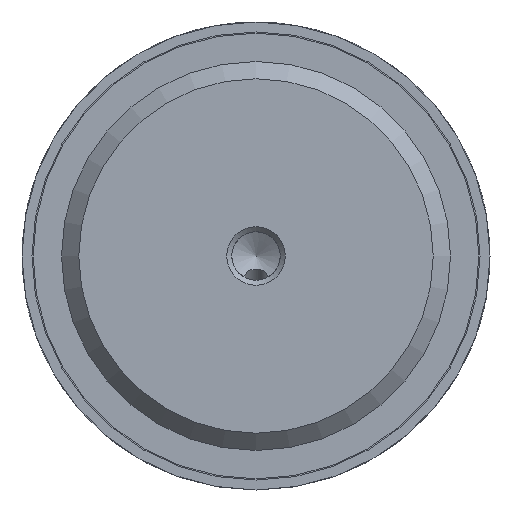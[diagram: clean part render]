
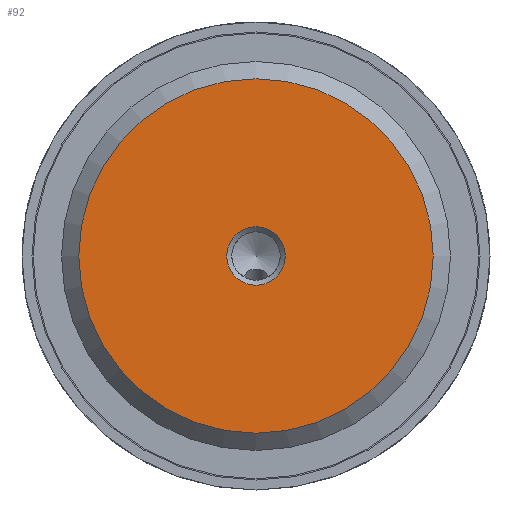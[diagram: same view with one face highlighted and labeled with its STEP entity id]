
A CAD part, front view. The second image highlights one B-rep face of the part: STEP entity #92.
In plain terms, the highlighted planar face has unit normal (0, -1, 0).
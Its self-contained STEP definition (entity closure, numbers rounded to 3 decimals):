
#92 = ADVANCED_FACE( '', ( #147, #148 ), #149, .F. );
#147 = FACE_BOUND( '', #223, .T. );
#148 = FACE_OUTER_BOUND( '', #224, .T. );
#149 = PLANE( '', #225 );
#223 = EDGE_LOOP( '', ( #373 ) );
#224 = EDGE_LOOP( '', ( #374 ) );
#225 = AXIS2_PLACEMENT_3D( '', #375, #376, #377 );
#373 = ORIENTED_EDGE( '', *, *, #497, .F. );
#374 = ORIENTED_EDGE( '', *, *, #496, .T. );
#375 = CARTESIAN_POINT( '', ( 15.146, 0., 0. ) );
#376 = DIRECTION( '', ( 0., 1., 0. ) );
#377 = DIRECTION( '', ( 0., 0., 1. ) );
#496 = EDGE_CURVE( '', #603, #603, #604, .T. );
#497 = EDGE_CURVE( '', #605, #605, #606, .T. );
#603 = VERTEX_POINT( '', #891 );
#604 = CIRCLE( '', #892, 15.146 );
#605 = VERTEX_POINT( '', #893 );
#606 = CIRCLE( '', #894, 2.5 );
#891 = CARTESIAN_POINT( '', ( 0., 0., -15.146 ) );
#892 = AXIS2_PLACEMENT_3D( '', #984, #985, #986 );
#893 = CARTESIAN_POINT( '', ( 2.5, 0., 0. ) );
#894 = AXIS2_PLACEMENT_3D( '', #987, #988, #989 );
#984 = CARTESIAN_POINT( '', ( 0., 0., 0. ) );
#985 = DIRECTION( '', ( 0., -1., 0. ) );
#986 = DIRECTION( '', ( 0., 0., -1. ) );
#987 = CARTESIAN_POINT( '', ( 0., 0., 0. ) );
#988 = DIRECTION( '', ( 0., -1., 0. ) );
#989 = DIRECTION( '', ( 1., 0., 0. ) );
